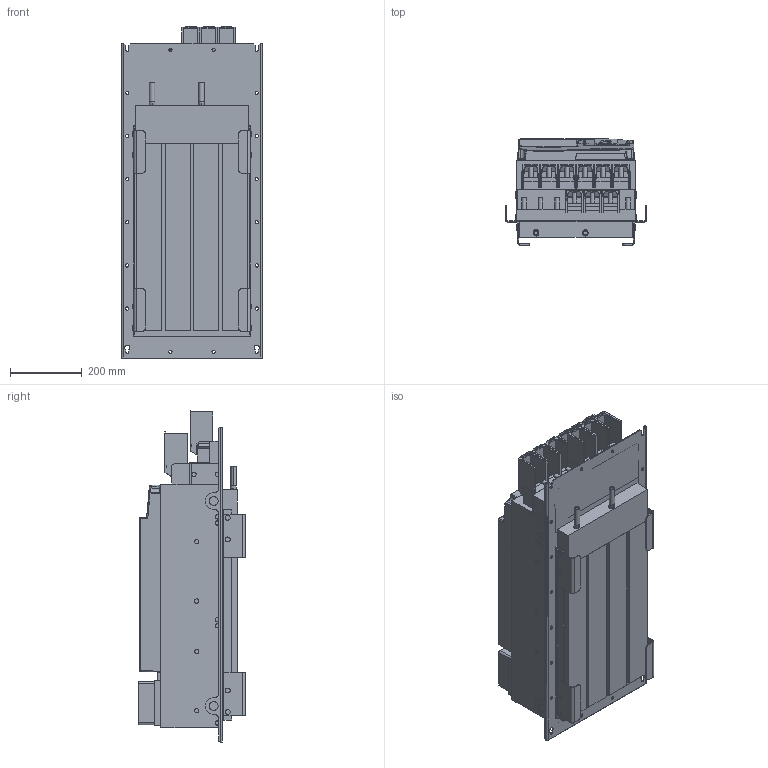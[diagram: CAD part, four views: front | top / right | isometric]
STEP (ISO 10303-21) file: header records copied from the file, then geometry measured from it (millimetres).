
FILE_DESCRIPTION (( 'STEP AP214' ), '1' );
FILE_NAME ('F6-8TW5-K001.STEP', '2021-03-10T15:12:52', ( '' ), ( '' ), 'SwSTEP 2.0', 'SolidWorks 2019', '' );
FILE_SCHEMA (( 'AUTOMOTIVE_DESIGN' ));
Length unit declared in the file: millimetre
Products named in the file (13): 10040552_000_Kundenmodell; 10059765_000; 10047771_000_Kundenmodell; 10035735_000_Kundenmodell; 10063180_000; 10063996_000; 10063199_000; F6-8TW5-K001; 10038044_000_Kundemodell; 10059764_000_Blindabdeckung (Kundenmodell); 10063225_000; 10063936_000_F6-8 Leistungsteil TW5 (Kundenmodell + BW); 10058413_000
Assembly tree (12 placements, depth 4):
  F6-8TW5-K001
    10063936_000_F6-8 Leistungsteil TW5 (Kundenmodell + BW)
      10038044_000_Kundemodell
        10063180_000
      10063996_000
    10040552_000_Kundenmodell
      10047771_000_Kundenmodell
        10063225_000
      10063199_000
    10035735_000_Kundenmodell
      10059764_000_Blindabdeckung (Kundenmodell)
        10059765_000
      10058413_000
Bounding box: 392 x 296.9 x 923.32 mm (x, y, z)
Volume: 64688143.7 mm3; surface area: 2948811.2 mm2
Topology: 6 solids, 30 shells, 2802 faces, 7144 edges, 4434 vertices
Faces by surface type: plane 1457, cylinder 835, bspline 213, sphere 154, cone 90, torus 53
Entity records: 90254 total; most frequent: CARTESIAN_POINT 23990, ORIENTED_EDGE 14066, DIRECTION 13150, EDGE_CURVE 7033, VECTOR 4474, LINE 4474, VERTEX_POINT 4431, AXIS2_PLACEMENT_3D 4338
